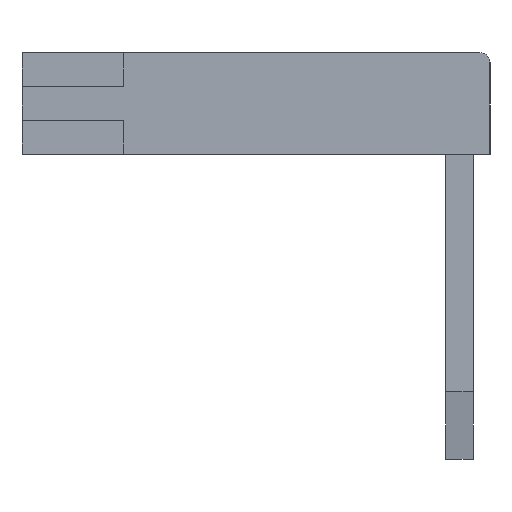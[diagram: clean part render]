
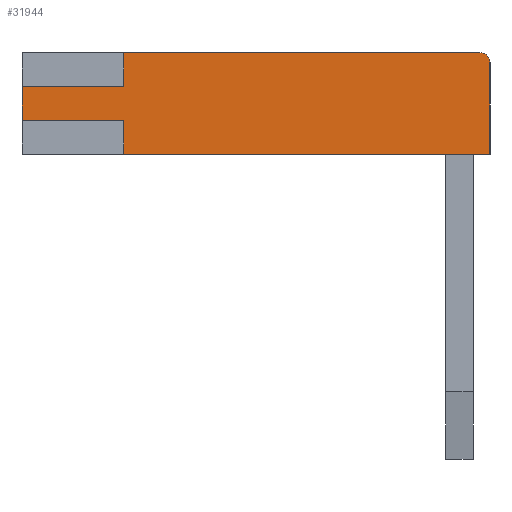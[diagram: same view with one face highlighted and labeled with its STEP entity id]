
A CAD part, left-side view. The second image highlights one B-rep face of the part: STEP entity #31944.
In plain terms, the highlighted planar face has unit normal (-1, 0, 0).
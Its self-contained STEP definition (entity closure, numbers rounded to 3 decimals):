
#1055=CIRCLE('',#33029,0.3);
#7703=ORIENTED_EDGE('',*,*,#11045,.F.);
#7704=ORIENTED_EDGE('',*,*,#11044,.F.);
#7705=ORIENTED_EDGE('',*,*,#8381,.F.);
#7706=ORIENTED_EDGE('',*,*,#8636,.F.);
#7707=ORIENTED_EDGE('',*,*,#7903,.F.);
#7708=ORIENTED_EDGE('',*,*,#8637,.F.);
#7709=ORIENTED_EDGE('',*,*,#8386,.F.);
#7710=ORIENTED_EDGE('',*,*,#8188,.F.);
#7711=ORIENTED_EDGE('',*,*,#7920,.T.);
#7903=EDGE_CURVE('',#11226,#11227,#13451,.T.);
#7920=EDGE_CURVE('',#11244,#11242,#13468,.T.);
#8188=EDGE_CURVE('',#11244,#11441,#13676,.T.);
#8381=EDGE_CURVE('',#11563,#11564,#13843,.T.);
#8386=EDGE_CURVE('',#11441,#11566,#13848,.T.);
#8636=EDGE_CURVE('',#11227,#11563,#14089,.T.);
#8637=EDGE_CURVE('',#11566,#11226,#14090,.T.);
#11044=EDGE_CURVE('',#11564,#13269,#15901,.T.);
#11045=EDGE_CURVE('',#13269,#11242,#1055,.T.);
#11226=VERTEX_POINT('',#38211);
#11227=VERTEX_POINT('',#38213);
#11242=VERTEX_POINT('',#38245);
#11244=VERTEX_POINT('',#38248);
#11441=VERTEX_POINT('',#38803);
#11563=VERTEX_POINT('',#39194);
#11564=VERTEX_POINT('',#39196);
#11566=VERTEX_POINT('',#39202);
#13269=VERTEX_POINT('',#48385);
#13451=LINE('',#38212,#16083);
#13468=LINE('',#38247,#16100);
#13676=LINE('',#38802,#16308);
#13843=LINE('',#39195,#16475);
#13848=LINE('',#39205,#16480);
#14089=LINE('',#39736,#16721);
#14090=LINE('',#39738,#16722);
#15901=LINE('',#48386,#18533);
#16083=VECTOR('',#33262,1000.);
#16100=VECTOR('',#33281,1000.);
#16308=VECTOR('',#33789,1000.);
#16475=VECTOR('',#34162,1000.);
#16480=VECTOR('',#34169,1000.);
#16721=VECTOR('',#34564,1000.);
#16722=VECTOR('',#34567,1000.);
#18533=VECTOR('',#37818,1000.);
#19880=EDGE_LOOP('',(#7703,#7704,#7705,#7706,#7707,#7708,#7709,#7710,#7711));
#21228=FACE_BOUND('',#19880,.T.);
#22119=PLANE('',#33028);
#31944=ADVANCED_FACE('',(#21228),#22119,.T.);
#33028=AXIS2_PLACEMENT_3D('',#48387,#37819,#37820);
#33029=AXIS2_PLACEMENT_3D('',#48388,#37821,#37822);
#33262=DIRECTION('',(0.,0.,1.));
#33281=DIRECTION('',(0.,0.,1.));
#33789=DIRECTION('',(0.,1.,0.));
#34162=DIRECTION('',(0.,0.,1.));
#34169=DIRECTION('',(0.,0.,1.));
#34564=DIRECTION('',(0.,-1.,0.));
#34567=DIRECTION('',(0.,1.,0.));
#37818=DIRECTION('',(0.,-1.,0.));
#37819=DIRECTION('',(-1.,0.,0.));
#37820=DIRECTION('',(0.,-1.,0.));
#37821=DIRECTION('',(1.,0.,0.));
#37822=DIRECTION('',(0.,-0.707,0.707));
#38211=CARTESIAN_POINT('',(-56.55,7.,-0.5));
#38212=CARTESIAN_POINT('',(-56.55,7.,0.));
#38213=CARTESIAN_POINT('',(-56.55,7.,0.5));
#38245=CARTESIAN_POINT('',(-56.55,-6.804,1.2));
#38247=CARTESIAN_POINT('',(-56.55,-6.804,0.));
#38248=CARTESIAN_POINT('',(-56.55,-6.804,-1.5));
#38802=CARTESIAN_POINT('',(-56.55,7.,-1.5));
#38803=CARTESIAN_POINT('',(-56.55,4.,-1.5));
#39194=CARTESIAN_POINT('',(-56.55,4.,0.5));
#39195=CARTESIAN_POINT('',(-56.55,4.,0.));
#39196=CARTESIAN_POINT('',(-56.55,4.,1.5));
#39202=CARTESIAN_POINT('',(-56.55,4.,-0.5));
#39205=CARTESIAN_POINT('',(-56.55,4.,0.));
#39736=CARTESIAN_POINT('',(-56.55,7.,0.5));
#39738=CARTESIAN_POINT('',(-56.55,7.,-0.5));
#48385=CARTESIAN_POINT('',(-56.55,-6.504,1.5));
#48386=CARTESIAN_POINT('',(-56.55,7.,1.5));
#48387=CARTESIAN_POINT('',(-56.55,4.,0.));
#48388=CARTESIAN_POINT('',(-56.55,-6.504,1.2));
